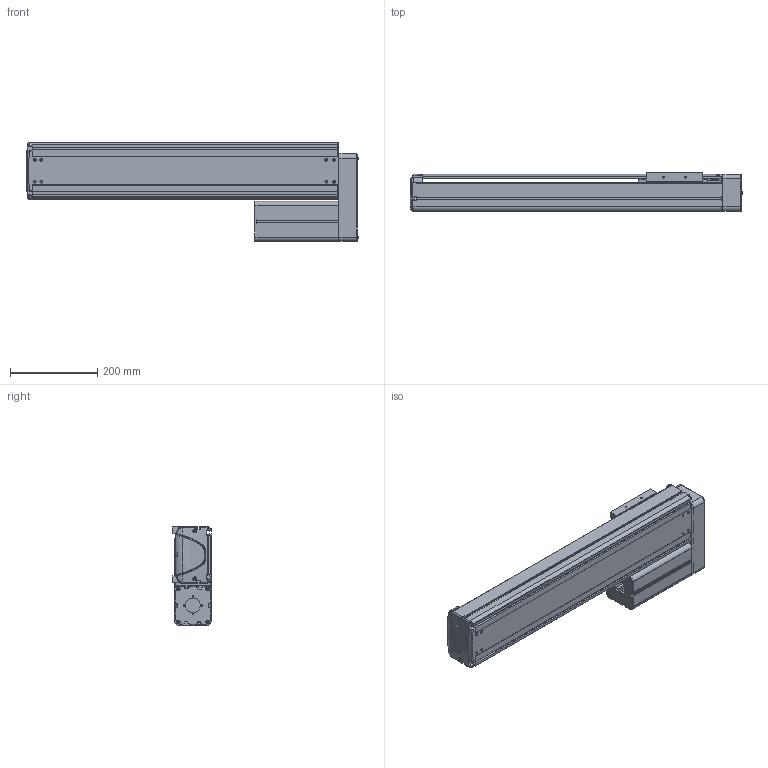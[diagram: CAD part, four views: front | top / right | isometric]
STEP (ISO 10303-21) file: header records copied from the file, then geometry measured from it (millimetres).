
FILE_DESCRIPTION((''),'2;1');
FILE_NAME('BE30E-UL-M_B-50_IGS_PRT','2017-06-17T',(' '),(''),'PRO/ENGINEER BY PARAMETRIC TECHNOLOGY CORPORATION, 2015030','PRO/ENGINEER BY PARAMETRIC TECHNOLOGY CORPORATION, 2015030','');
FILE_SCHEMA(('CONFIG_CONTROL_DESIGN'));
Products named in the file (1): BE30E-UL-M_B-50_IGS_PRT
Bounding box: 761.9 x 89.8 x 227 mm (x, y, z)
Volume: 2808513.4 mm3; surface area: 1216546.4 mm2
Topology: 2 solids, 112 shells, 1987 faces, 5335 edges, 3460 vertices
Faces by surface type: plane 992, cylinder 801, cone 103, torus 39, bspline 28, sphere 24
Entity records: 64112 total; most frequent: CARTESIAN_POINT 13507, DIRECTION 10703, ORIENTED_EDGE 10178, EDGE_CURVE 5297, AXIS2_PLACEMENT_3D 3752, VERTEX_POINT 3460, VECTOR 3199, LINE 3199
